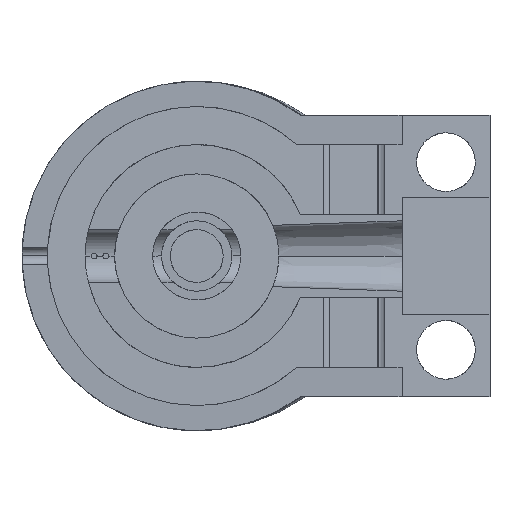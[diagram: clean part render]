
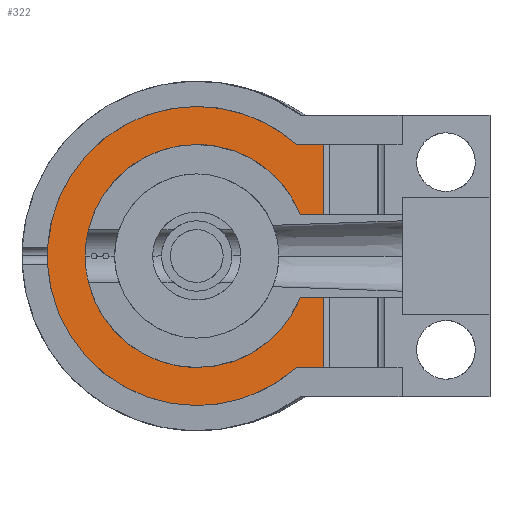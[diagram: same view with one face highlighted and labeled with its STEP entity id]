
A CAD part, left-side view. The second image highlights one B-rep face of the part: STEP entity #322.
In plain terms, the highlighted planar face has unit normal (-0.997, -0.079, 0).
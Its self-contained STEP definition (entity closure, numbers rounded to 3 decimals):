
#322=ADVANCED_FACE('',(#658),#659,.F.);
#658=FACE_OUTER_BOUND('',#993,.T.);
#659=PLANE('',#994);
#993=EDGE_LOOP('',(#1982,#1983,#1984,#1985,#1986,#1987,#1988,#1989,#1990,#1991,#1992,#1993));
#994=AXIS2_PLACEMENT_3D('',#1994,#1995,#1996);
#1982=ORIENTED_EDGE('',*,*,#2368,.T.);
#1983=ORIENTED_EDGE('',*,*,#2473,.F.);
#1984=ORIENTED_EDGE('',*,*,#2477,.F.);
#1985=ORIENTED_EDGE('',*,*,#2346,.F.);
#1986=ORIENTED_EDGE('',*,*,#2109,.F.);
#1987=ORIENTED_EDGE('',*,*,#2493,.F.);
#1988=ORIENTED_EDGE('',*,*,#2371,.T.);
#1989=ORIENTED_EDGE('',*,*,#2196,.F.);
#1990=ORIENTED_EDGE('',*,*,#2206,.F.);
#1991=ORIENTED_EDGE('',*,*,#2461,.F.);
#1992=ORIENTED_EDGE('',*,*,#2382,.F.);
#1993=ORIENTED_EDGE('',*,*,#2394,.F.);
#1994=CARTESIAN_POINT('',(16.91,107.5,-38.0));
#1995=DIRECTION('',(0.997,0.078,0.0));
#1996=DIRECTION('',(-0.078,0.997,0.0));
#2109=EDGE_CURVE('',#2554,#2549,#2556,.T.);
#2196=EDGE_CURVE('',#2712,#2714,#2715,.T.);
#2206=EDGE_CURVE('',#2728,#2712,#2731,.T.);
#2346=EDGE_CURVE('',#2549,#2953,#2954,.T.);
#2368=EDGE_CURVE('',#2983,#2981,#2984,.T.);
#2371=EDGE_CURVE('',#2988,#2714,#2989,.T.);
#2382=EDGE_CURVE('',#3002,#3000,#3004,.T.);
#2394=EDGE_CURVE('',#2983,#3002,#3018,.T.);
#2461=EDGE_CURVE('',#3000,#2728,#3102,.T.);
#2473=EDGE_CURVE('',#3113,#2981,#3115,.T.);
#2477=EDGE_CURVE('',#2953,#3113,#3119,.T.);
#2493=EDGE_CURVE('',#2988,#2554,#3135,.T.);
#2549=VERTEX_POINT('',#3308);
#2554=VERTEX_POINT('',#3314);
#2556=ELLIPSE('',#3317,25.579,25.5);
#2712=VERTEX_POINT('',#3770);
#2714=VERTEX_POINT('',#3773);
#2715=LINE('',#3774,#3775);
#2728=VERTEX_POINT('',#3883);
#2731=ELLIPSE('',#3887,19.059,19.0);
#2953=VERTEX_POINT('',#4679);
#2954=ELLIPSE('',#4680,25.579,25.5);
#2981=VERTEX_POINT('',#4851);
#2983=VERTEX_POINT('',#4853);
#2984=LINE('',#4854,#4855);
#2988=VERTEX_POINT('',#4860);
#2989=LINE('',#4861,#4862);
#3000=VERTEX_POINT('',#4896);
#3002=VERTEX_POINT('',#4899);
#3004=ELLIPSE('',#4902,19.059,19.0);
#3018=LINE('',#4995,#4996);
#3102=ELLIPSE('',#5419,19.059,19.0);
#3113=VERTEX_POINT('',#5572);
#3115=LINE('',#5575,#5576);
#3119=ELLIPSE('',#5581,25.579,25.5);
#3135=LINE('',#5601,#5602);
#3308=CARTESIAN_POINT('',(13.565,150.0,-25.5));
#3314=CARTESIAN_POINT('',(14.903,132.993,-19.));
#3317=AXIS2_PLACEMENT_3D('',#5656,#5657,#5658);
#3770=CARTESIAN_POINT('',(14.955,132.336,-7.));
#3773=CARTESIAN_POINT('',(15.266,128.387,-7.));
#3774=CARTESIAN_POINT('',(14.836,133.844,-7.));
#3775=VECTOR('',#5771,1.0);
#3883=CARTESIAN_POINT('',(13.565,150.0,-19.));
#3887=AXIS2_PLACEMENT_3D('',#5786,#5787,#5788);
#4679=CARTESIAN_POINT('',(13.565,150.0,25.5));
#4680=AXIS2_PLACEMENT_3D('',#5984,#5985,#5986);
#4851=CARTESIAN_POINT('',(15.266,128.387,19.));
#4853=CARTESIAN_POINT('',(15.266,128.387,7.));
#4854=CARTESIAN_POINT('',(15.266,128.387,0.));
#4855=VECTOR('',#6006,1.0);
#4860=CARTESIAN_POINT('',(15.266,128.387,-19.));
#4861=CARTESIAN_POINT('',(15.266,128.387,0.));
#4862=VECTOR('',#6011,1.0);
#4896=CARTESIAN_POINT('',(13.565,150.0,19.));
#4899=CARTESIAN_POINT('',(14.955,132.336,7.));
#4902=AXIS2_PLACEMENT_3D('',#6022,#6023,#6024);
#4995=CARTESIAN_POINT('',(14.836,133.844,7.));
#4996=VECTOR('',#6031,1.0);
#5419=AXIS2_PLACEMENT_3D('',#6099,#6100,#6101);
#5572=CARTESIAN_POINT('',(14.903,132.993,19.));
#5575=CARTESIAN_POINT('',(14.824,134.007,19.));
#5576=VECTOR('',#6107,1.0);
#5581=AXIS2_PLACEMENT_3D('',#6109,#6110,#6111);
#5601=CARTESIAN_POINT('',(14.824,134.007,-19.));
#5602=VECTOR('',#6125,1.0);
#5656=CARTESIAN_POINT('',(13.565,150.0,0.));
#5657=DIRECTION('',(0.997,0.078,0.));
#5658=DIRECTION('',(-0.078,0.997,0.));
#5771=DIRECTION('',(0.078,-0.997,0.));
#5786=CARTESIAN_POINT('',(13.565,150.0,0.));
#5787=DIRECTION('',(-0.997,-0.078,0.));
#5788=DIRECTION('',(-0.078,0.997,0.));
#5984=CARTESIAN_POINT('',(13.565,150.0,0.));
#5985=DIRECTION('',(0.997,0.078,0.));
#5986=DIRECTION('',(-0.078,0.997,0.));
#6006=DIRECTION('',(0.0,0.0,1.0));
#6011=DIRECTION('',(0.0,0.0,1.0));
#6022=CARTESIAN_POINT('',(13.565,150.0,0.));
#6023=DIRECTION('',(-0.997,-0.078,0.));
#6024=DIRECTION('',(-0.078,0.997,0.));
#6031=DIRECTION('',(-0.078,0.997,0.));
#6099=CARTESIAN_POINT('',(13.565,150.0,0.));
#6100=DIRECTION('',(-0.997,-0.078,0.));
#6101=DIRECTION('',(-0.078,0.997,0.));
#6107=DIRECTION('',(0.078,-0.997,0.));
#6109=CARTESIAN_POINT('',(13.565,150.0,0.));
#6110=DIRECTION('',(0.997,0.078,0.));
#6111=DIRECTION('',(-0.078,0.997,0.));
#6125=DIRECTION('',(-0.078,0.997,0.));
